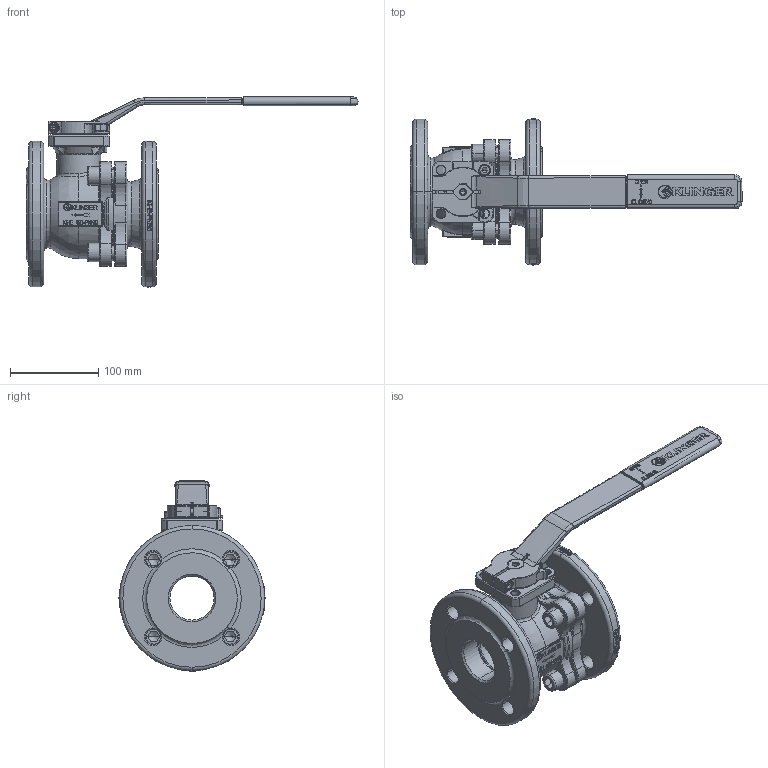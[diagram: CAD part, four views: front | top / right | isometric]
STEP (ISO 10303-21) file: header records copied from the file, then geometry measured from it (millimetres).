
FILE_DESCRIPTION((''),'2;1');
FILE_NAME('KHEFK050VFK050P040PKK','2015-08-07T',('mahrhauserh'),('RAND'),'PRO/ENGINEER BY PARAMETRIC TECHNOLOGY CORPORATION, 2013410','PRO/ENGINEER BY PARAMETRIC TECHNOLOGY CORPORATION, 2013410','');
FILE_SCHEMA(('CONFIG_CONTROL_DESIGN'));
Products named in the file (1): KHEFK050VFK050P040PKK
Bounding box: 377 x 165.8 x 215.95 mm (x, y, z)
Volume: 1500470.1 mm3; surface area: 307291.2 mm2
Topology: 1 solids, 3 shells, 3153 faces, 8331 edges, 5287 vertices
Faces by surface type: plane 1948, cylinder 459, torus 306, bspline 266, cone 137, sphere 37
Entity records: 120756 total; most frequent: CARTESIAN_POINT 44726, ORIENTED_EDGE 16630, DIRECTION 14785, EDGE_CURVE 8315, VERTEX_POINT 5287, VECTOR 5043, LINE 5043, AXIS2_PLACEMENT_3D 4871
